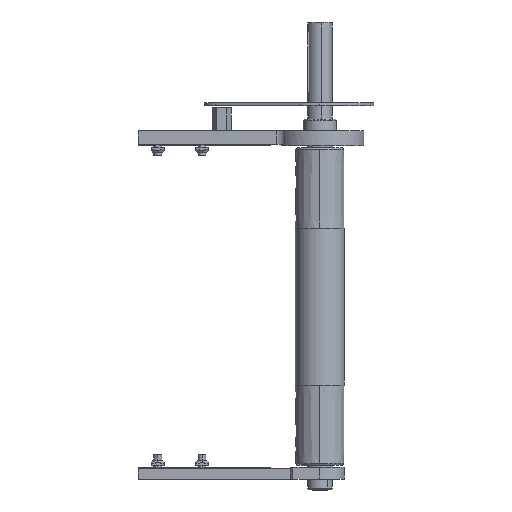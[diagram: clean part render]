
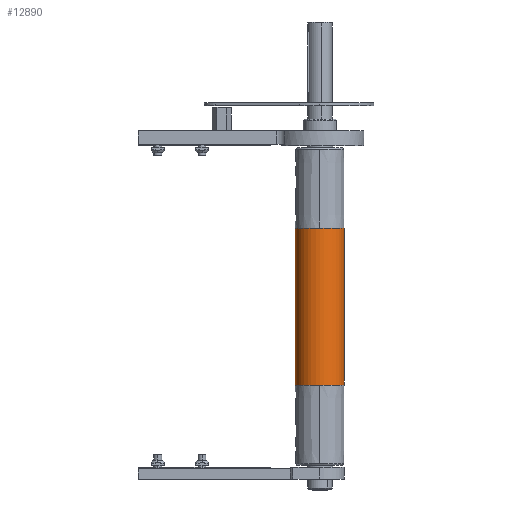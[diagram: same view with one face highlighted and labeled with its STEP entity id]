
A CAD part, front view. The second image highlights one B-rep face of the part: STEP entity #12890.
In plain terms, the highlighted cylindrical face has radius 25 mm (diameter 50 mm), a partial arc.
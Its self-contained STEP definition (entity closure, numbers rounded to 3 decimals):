
#529 = DIRECTION ( 'NONE',  ( 0., 1., 0. ) ) ;
#533 = DIRECTION ( 'NONE',  ( 0., 0., -1. ) ) ;
#536 = DIRECTION ( 'NONE',  ( 0., 1., 0. ) ) ;
#537 = CARTESIAN_POINT ( 'NONE',  ( 25., 0., 160. ) ) ;
#540 = DIRECTION ( 'NONE',  ( 0., 0., -1. ) ) ;
#557 = DIRECTION ( 'NONE',  ( 0., 0., -1. ) ) ;
#558 = CARTESIAN_POINT ( 'NONE',  ( 0., 0., -80. ) ) ;
#561 = CARTESIAN_POINT ( 'NONE',  ( 0., 0., 80. ) ) ;
#562 = DIRECTION ( 'NONE',  ( 0., 0., -1. ) ) ;
#565 = CARTESIAN_POINT ( 'NONE',  ( 0., 0., -80. ) ) ;
#568 = DIRECTION ( 'NONE',  ( 0., 1., 0. ) ) ;
#578 = CARTESIAN_POINT ( 'NONE',  ( 0., 0., 80. ) ) ;
#591 = DIRECTION ( 'NONE',  ( 0., 0., -1. ) ) ;
#594 = DIRECTION ( 'NONE',  ( 0., 1., 0. ) ) ;
#622 = CARTESIAN_POINT ( 'NONE',  ( -25., 0., 160. ) ) ;
#661 = DIRECTION ( 'NONE',  ( 0., 0., -1. ) ) ;
#1795 = EDGE_CURVE ( 'NONE', #13984, #13936, #8703, .T. ) ;
#1817 = EDGE_CURVE ( 'NONE', #13807, #13837, #8652, .T. ) ;
#1819 = EDGE_CURVE ( 'NONE', #13936, #10313, #8697, .T. ) ;
#1821 = EDGE_CURVE ( 'NONE', #10435, #13807, #8614, .T. ) ;
#1826 = EDGE_CURVE ( 'NONE', #10313, #13837, #8762, .T. ) ;
#1855 = EDGE_CURVE ( 'NONE', #13984, #10435, #18098, .T. ) ;
#2354 = AXIS2_PLACEMENT_3D ( 'NONE', #565, #533, #568 ) ;
#2362 = AXIS2_PLACEMENT_3D ( 'NONE', #578, #591, #594 ) ;
#2367 = AXIS2_PLACEMENT_3D ( 'NONE', #558, #557, #536 ) ;
#2368 = AXIS2_PLACEMENT_3D ( 'NONE', #561, #562, #529 ) ;
#2681 = AXIS2_PLACEMENT_3D ( 'NONE', #7303, #7301, #7299 ) ;
#3850 = FACE_OUTER_BOUND ( 'NONE', #13509, .T. ) ;
#3859 = CYLINDRICAL_SURFACE ( 'NONE', #2681, 25. ) ;
#4655 = CARTESIAN_POINT ( 'NONE',  ( -25., 0., 80. ) ) ;
#4777 = CARTESIAN_POINT ( 'NONE',  ( 25., 0., -80. ) ) ;
#7299 = DIRECTION ( 'NONE',  ( 1., 0., 0. ) ) ;
#7301 = DIRECTION ( 'NONE',  ( 0., 0., -1. ) ) ;
#7303 = CARTESIAN_POINT ( 'NONE',  ( 0., 0., 160. ) ) ;
#7983 = CARTESIAN_POINT ( 'NONE',  ( 0., -25., -80. ) ) ;
#8013 = CARTESIAN_POINT ( 'NONE',  ( -25., 0., -80. ) ) ;
#8112 = CARTESIAN_POINT ( 'NONE',  ( 0., -25., 80. ) ) ;
#8160 = CARTESIAN_POINT ( 'NONE',  ( 25., 0., 80. ) ) ;
#8614 = CIRCLE ( 'NONE', #2367, 25. ) ;
#8652 = CIRCLE ( 'NONE', #2354, 25. ) ;
#8697 = CIRCLE ( 'NONE', #2368, 25. ) ;
#8703 = CIRCLE ( 'NONE', #2362, 25. ) ;
#8732 = VECTOR ( 'NONE', #661, 1000. ) ;
#8762 = LINE ( 'NONE', #622, #8732 ) ;
#10313 = VERTEX_POINT ( 'NONE', #4655 ) ;
#10435 = VERTEX_POINT ( 'NONE', #4777 ) ;
#12890 = ADVANCED_FACE ( 'NONE', ( #3850 ), #3859, .T. ) ;
#13509 = EDGE_LOOP ( 'NONE', ( #17160, #17225, #17222, #17228, #17224, #17223 ) ) ;
#13807 = VERTEX_POINT ( 'NONE', #7983 ) ;
#13837 = VERTEX_POINT ( 'NONE', #8013 ) ;
#13936 = VERTEX_POINT ( 'NONE', #8112 ) ;
#13984 = VERTEX_POINT ( 'NONE', #8160 ) ;
#17160 = ORIENTED_EDGE ( 'NONE', *, *, #1795, .T. ) ;
#17222 = ORIENTED_EDGE ( 'NONE', *, *, #1826, .T. ) ;
#17223 = ORIENTED_EDGE ( 'NONE', *, *, #1855, .F. ) ;
#17224 = ORIENTED_EDGE ( 'NONE', *, *, #1821, .F. ) ;
#17225 = ORIENTED_EDGE ( 'NONE', *, *, #1819, .T. ) ;
#17228 = ORIENTED_EDGE ( 'NONE', *, *, #1817, .F. ) ;
#18098 = LINE ( 'NONE', #537, #18100 ) ;
#18100 = VECTOR ( 'NONE', #540, 1000. ) ;
